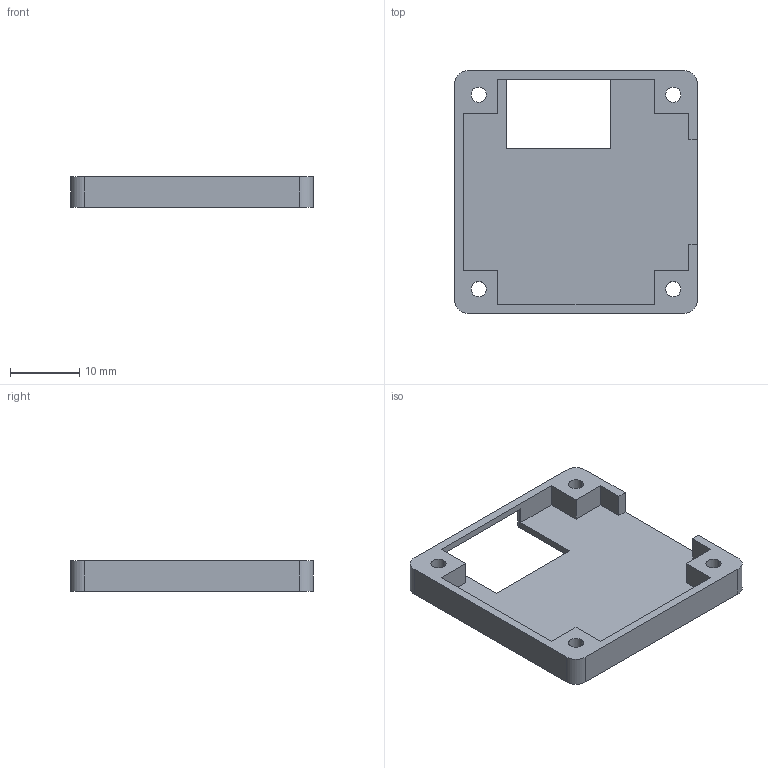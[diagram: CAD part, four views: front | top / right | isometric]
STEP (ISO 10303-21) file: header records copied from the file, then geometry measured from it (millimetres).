
FILE_DESCRIPTION (( 'STEP AP203' ), '1' );
FILE_NAME ('hertmann1.STEP', '2026-07-02T04:42:03', ( '' ), ( '' ), 'SwSTEP 2.0', 'SolidWorks 2024', '' );
FILE_SCHEMA (( 'CONFIG_CONTROL_DESIGN' ));
Length unit declared in the file: millimetre
Products named in the file (1): hertmann1
Bounding box: 35 x 35 x 4.4 mm (x, y, z)
Volume: 1690.1 mm3; surface area: 3193.9 mm2
Topology: 1 solids, 1 shells, 52 faces, 144 edges, 96 vertices
Faces by surface type: plane 30, cylinder 22
Entity records: 1769 total; most frequent: DIRECTION 294, CARTESIAN_POINT 293, ORIENTED_EDGE 288, EDGE_CURVE 144, VECTOR 100, LINE 100, AXIS2_PLACEMENT_3D 97, VERTEX_POINT 96
